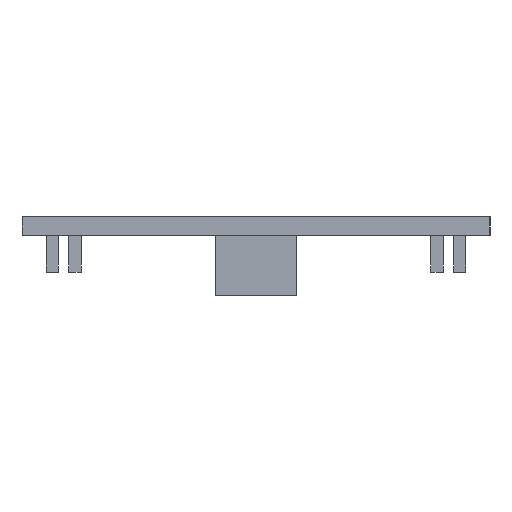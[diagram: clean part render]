
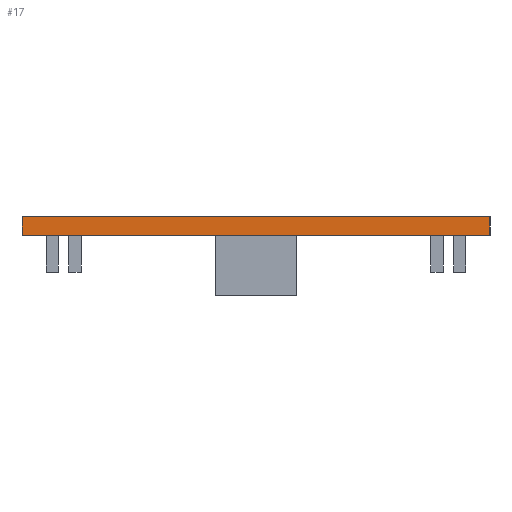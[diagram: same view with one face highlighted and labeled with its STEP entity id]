
A CAD part, left-side view. The second image highlights one B-rep face of the part: STEP entity #17.
In plain terms, the highlighted planar face has unit normal (-1, 0, 0).
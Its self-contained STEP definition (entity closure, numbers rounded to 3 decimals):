
#17 = ADVANCED_FACE('',(#18),#32,.F.);
#18 = FACE_BOUND('',#19,.F.);
#19 = EDGE_LOOP('',(#20,#55,#83,#111));
#20 = ORIENTED_EDGE('',*,*,#21,.F.);
#21 = EDGE_CURVE('',#22,#24,#26,.T.);
#22 = VERTEX_POINT('',#23);
#23 = CARTESIAN_POINT('',(-160.,-76.,6.));
#24 = VERTEX_POINT('',#25);
#25 = CARTESIAN_POINT('',(-160.,-76.,12.));
#26 = SURFACE_CURVE('',#27,(#31,#43),.PCURVE_S1.);
#27 = LINE('',#28,#29);
#28 = CARTESIAN_POINT('',(-160.,-76.,6.));
#29 = VECTOR('',#30,1.);
#30 = DIRECTION('',(0.,0.,1.));
#31 = PCURVE('',#32,#37);
#32 = PLANE('',#33);
#33 = AXIS2_PLACEMENT_3D('',#34,#35,#36);
#34 = CARTESIAN_POINT('',(-160.,-76.,6.));
#35 = DIRECTION('',(1.,0.,-0.));
#36 = DIRECTION('',(0.,0.,1.));
#37 = DEFINITIONAL_REPRESENTATION('',(#38),#42);
#38 = LINE('',#39,#40);
#39 = CARTESIAN_POINT('',(0.,0.));
#40 = VECTOR('',#41,1.);
#41 = DIRECTION('',(1.,0.));
#42 = ( GEOMETRIC_REPRESENTATION_CONTEXT(2) 
PARAMETRIC_REPRESENTATION_CONTEXT() REPRESENTATION_CONTEXT('2D SPACE',''
  ) );
#43 = PCURVE('',#44,#49);
#44 = PLANE('',#45);
#45 = AXIS2_PLACEMENT_3D('',#46,#47,#48);
#46 = CARTESIAN_POINT('',(-160.,-76.,6.));
#47 = DIRECTION('',(-0.,1.,0.));
#48 = DIRECTION('',(0.,0.,1.));
#49 = DEFINITIONAL_REPRESENTATION('',(#50),#54);
#50 = LINE('',#51,#52);
#51 = CARTESIAN_POINT('',(0.,0.));
#52 = VECTOR('',#53,1.);
#53 = DIRECTION('',(1.,0.));
#54 = ( GEOMETRIC_REPRESENTATION_CONTEXT(2) 
PARAMETRIC_REPRESENTATION_CONTEXT() REPRESENTATION_CONTEXT('2D SPACE',''
  ) );
#55 = ORIENTED_EDGE('',*,*,#56,.T.);
#56 = EDGE_CURVE('',#22,#57,#59,.T.);
#57 = VERTEX_POINT('',#58);
#58 = CARTESIAN_POINT('',(-160.,76.,6.));
#59 = SURFACE_CURVE('',#60,(#64,#71),.PCURVE_S1.);
#60 = LINE('',#61,#62);
#61 = CARTESIAN_POINT('',(-160.,-76.,6.));
#62 = VECTOR('',#63,1.);
#63 = DIRECTION('',(-0.,1.,0.));
#64 = PCURVE('',#32,#65);
#65 = DEFINITIONAL_REPRESENTATION('',(#66),#70);
#66 = LINE('',#67,#68);
#67 = CARTESIAN_POINT('',(0.,0.));
#68 = VECTOR('',#69,1.);
#69 = DIRECTION('',(0.,-1.));
#70 = ( GEOMETRIC_REPRESENTATION_CONTEXT(2) 
PARAMETRIC_REPRESENTATION_CONTEXT() REPRESENTATION_CONTEXT('2D SPACE',''
  ) );
#71 = PCURVE('',#72,#77);
#72 = PLANE('',#73);
#73 = AXIS2_PLACEMENT_3D('',#74,#75,#76);
#74 = CARTESIAN_POINT('',(-160.,-76.,6.));
#75 = DIRECTION('',(0.,0.,1.));
#76 = DIRECTION('',(1.,0.,-0.));
#77 = DEFINITIONAL_REPRESENTATION('',(#78),#82);
#78 = LINE('',#79,#80);
#79 = CARTESIAN_POINT('',(0.,0.));
#80 = VECTOR('',#81,1.);
#81 = DIRECTION('',(0.,1.));
#82 = ( GEOMETRIC_REPRESENTATION_CONTEXT(2) 
PARAMETRIC_REPRESENTATION_CONTEXT() REPRESENTATION_CONTEXT('2D SPACE',''
  ) );
#83 = ORIENTED_EDGE('',*,*,#84,.T.);
#84 = EDGE_CURVE('',#57,#85,#87,.T.);
#85 = VERTEX_POINT('',#86);
#86 = CARTESIAN_POINT('',(-160.,76.,12.));
#87 = SURFACE_CURVE('',#88,(#92,#99),.PCURVE_S1.);
#88 = LINE('',#89,#90);
#89 = CARTESIAN_POINT('',(-160.,76.,6.));
#90 = VECTOR('',#91,1.);
#91 = DIRECTION('',(0.,0.,1.));
#92 = PCURVE('',#32,#93);
#93 = DEFINITIONAL_REPRESENTATION('',(#94),#98);
#94 = LINE('',#95,#96);
#95 = CARTESIAN_POINT('',(0.,-152.));
#96 = VECTOR('',#97,1.);
#97 = DIRECTION('',(1.,0.));
#98 = ( GEOMETRIC_REPRESENTATION_CONTEXT(2) 
PARAMETRIC_REPRESENTATION_CONTEXT() REPRESENTATION_CONTEXT('2D SPACE',''
  ) );
#99 = PCURVE('',#100,#105);
#100 = PLANE('',#101);
#101 = AXIS2_PLACEMENT_3D('',#102,#103,#104);
#102 = CARTESIAN_POINT('',(-160.,76.,6.));
#103 = DIRECTION('',(-0.,1.,0.));
#104 = DIRECTION('',(0.,0.,1.));
#105 = DEFINITIONAL_REPRESENTATION('',(#106),#110);
#106 = LINE('',#107,#108);
#107 = CARTESIAN_POINT('',(0.,0.));
#108 = VECTOR('',#109,1.);
#109 = DIRECTION('',(1.,0.));
#110 = ( GEOMETRIC_REPRESENTATION_CONTEXT(2) 
PARAMETRIC_REPRESENTATION_CONTEXT() REPRESENTATION_CONTEXT('2D SPACE',''
  ) );
#111 = ORIENTED_EDGE('',*,*,#112,.F.);
#112 = EDGE_CURVE('',#24,#85,#113,.T.);
#113 = SURFACE_CURVE('',#114,(#118,#125),.PCURVE_S1.);
#114 = LINE('',#115,#116);
#115 = CARTESIAN_POINT('',(-160.,-76.,12.));
#116 = VECTOR('',#117,1.);
#117 = DIRECTION('',(-0.,1.,0.));
#118 = PCURVE('',#32,#119);
#119 = DEFINITIONAL_REPRESENTATION('',(#120),#124);
#120 = LINE('',#121,#122);
#121 = CARTESIAN_POINT('',(6.,0.));
#122 = VECTOR('',#123,1.);
#123 = DIRECTION('',(0.,-1.));
#124 = ( GEOMETRIC_REPRESENTATION_CONTEXT(2) 
PARAMETRIC_REPRESENTATION_CONTEXT() REPRESENTATION_CONTEXT('2D SPACE',''
  ) );
#125 = PCURVE('',#126,#131);
#126 = PLANE('',#127);
#127 = AXIS2_PLACEMENT_3D('',#128,#129,#130);
#128 = CARTESIAN_POINT('',(-160.,-76.,12.));
#129 = DIRECTION('',(0.,0.,1.));
#130 = DIRECTION('',(1.,0.,-0.));
#131 = DEFINITIONAL_REPRESENTATION('',(#132),#136);
#132 = LINE('',#133,#134);
#133 = CARTESIAN_POINT('',(0.,0.));
#134 = VECTOR('',#135,1.);
#135 = DIRECTION('',(0.,1.));
#136 = ( GEOMETRIC_REPRESENTATION_CONTEXT(2) 
PARAMETRIC_REPRESENTATION_CONTEXT() REPRESENTATION_CONTEXT('2D SPACE',''
  ) );
